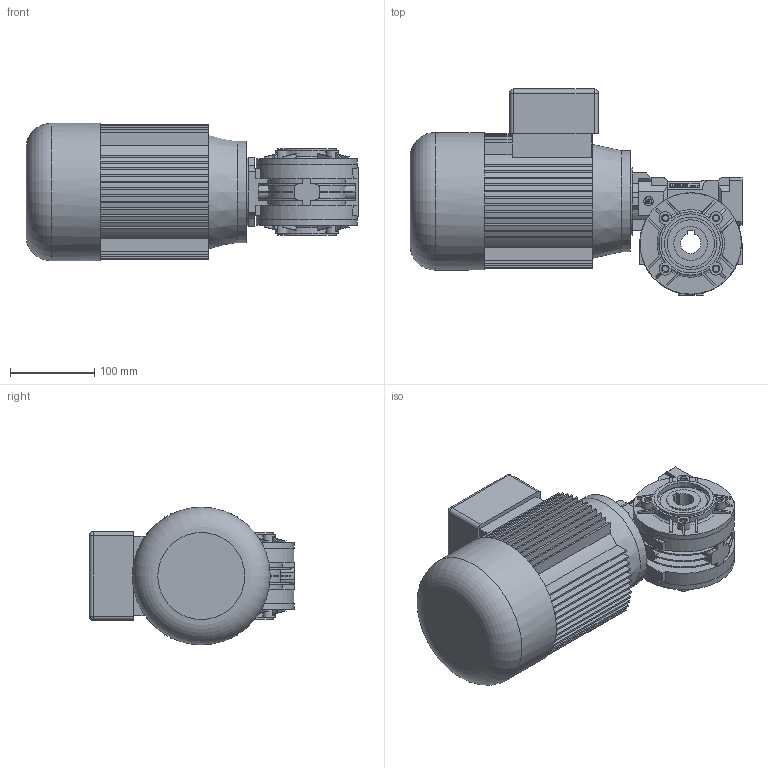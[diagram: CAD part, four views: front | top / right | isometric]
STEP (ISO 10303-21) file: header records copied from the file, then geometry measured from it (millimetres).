
FILE_DESCRIPTION( ( 'Unknown' ), '1' );
FILE_NAME( 'E:/services/configuratordownloads/customers/VARVEL/RS/download/90B9171DCD137E6C4B9BCA9E23A8FF/STEP/90B9171DCD137E6C4B9BCA9E23A8FF.3d.stp', 'Unknown', ( 'Unknown' ), ( 'Unknown' ), 'PSStep 10.1', 'Unknown', ' ' );
FILE_SCHEMA( ( 'AUTOMOTIVE_DESIGN { 1 0 10303 214 1 1 1 1 }' ) );
Length unit declared in the file: millimetre
Products named in the file (1): 572101
Bounding box: 393.25 x 244 x 163 mm (x, y, z)
Volume: 5979863.8 mm3; surface area: 462821 mm2
Topology: 1 solids, 3 shells, 937 faces, 2524 edges, 1654 vertices
Faces by surface type: plane 724, cylinder 163, torus 25, cone 21, sphere 4
Full cylindrical faces by diameter (mm): 5 x4, 7 x8, 7.5 x8, 11 x1, 19 x1, 20 x1, 21.5 x1, 25 x1, 40 x2, 45 x1, 47 x2, 56.1 x3, 60 x1, 61 x2, 62 x2, 68 x2, 70 x3, 78.5 x1, 80 x2, 86 x1, 120 x3, 163 x1
Entity records: 36942 total; most frequent: CARTESIAN_POINT 6088, ORIENTED_EDGE 4850, DIRECTION 4716, EDGE_CURVE 2425, LINE 1816, VECTOR 1816, VERTEX_POINT 1624, AXIS2_PLACEMENT_3D 1450
